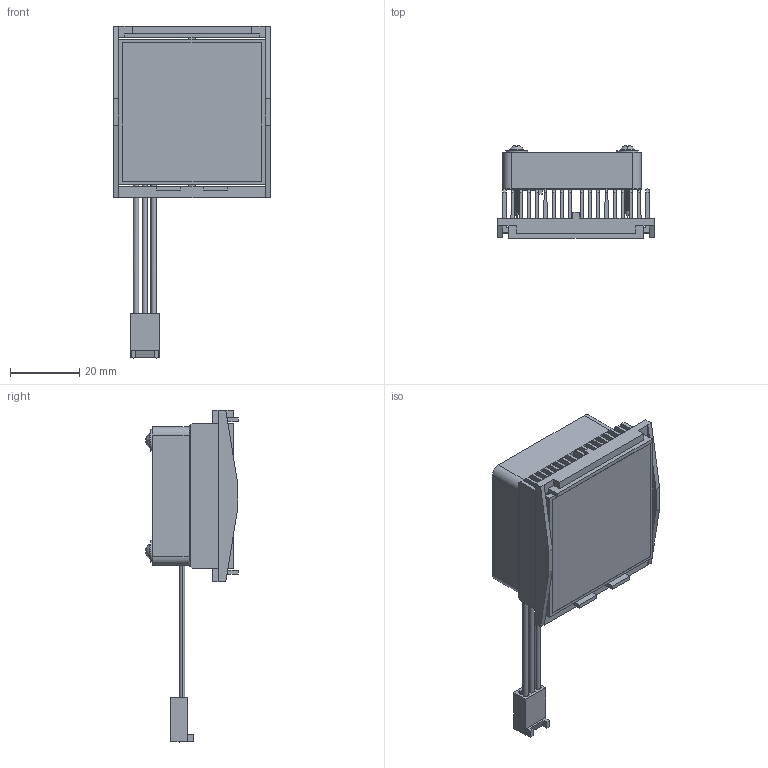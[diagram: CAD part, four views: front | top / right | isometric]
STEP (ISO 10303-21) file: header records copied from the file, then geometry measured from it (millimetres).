
FILE_DESCRIPTION (( 'STEP AP214' ), '1' );
FILE_NAME ('FI42.5-1.7+BU.STEP', '2023-03-08T17:33:39', ( '' ), ( '' ), 'SwSTEP 2.0', 'SolidWorks 2020', '' );
FILE_SCHEMA (( 'AUTOMOTIVE_DESIGN' ));
Length unit declared in the file: millimetre
Products named in the file (1): FI42.5-1.7+BU
Bounding box: 45.2 x 26.7 x 95.8 mm (x, y, z)
Volume: 21044.4 mm3; surface area: 35690.2 mm2
Topology: 12 solids, 12 shells, 1055 faces, 3071 edges, 2040 vertices
Faces by surface type: cylinder 454, plane 355, bspline 194, cone 36, sphere 8, torus 8
Entity records: 57443 total; most frequent: CARTESIAN_POINT 21595, ORIENTED_EDGE 6142, DIRECTION 3967, EDGE_CURVE 3071, VERTEX_POINT 2040, VECTOR 1495, LINE 1495, AXIS2_PLACEMENT_3D 1236
